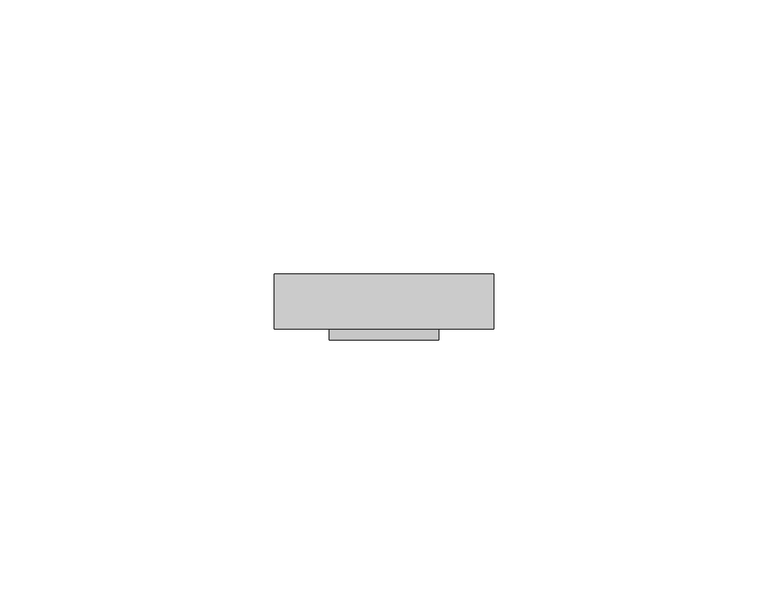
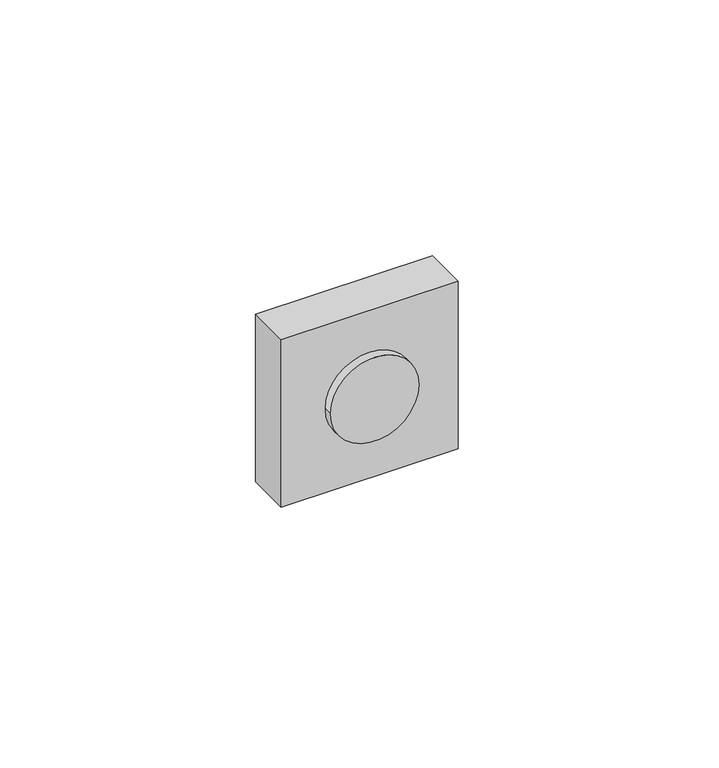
"""IFC4 building model written with IfcOpenShell, lengths in millimetres: proxy geometry, BIMHealth-Cancel_Button-Non_Wall_Mounted-LOD2A-v1 : BIMHealth-Cancel_Button-Non_Wall_Mounted-LOD2A-v1."""

from ifc_helpers import new_model, si_unit, point, frame, frame_2d, origin, place, context, project, spatial, polyline, circle_curve, trimmed, segment, composite_curve, outline, extrude, source, transform, mapped, element, save


def electrical_fixtures_5073e38d(model_context):
    return source(origin(), model_context, "Body", "SweptSolid", [
        extrude(outline(composite_curve([segment(trimmed(circle_curve(frame_2d((1364.2843475, 20.0)), 10.0), [point((1364.2843475, 10.0))], [point((1364.2843475, 30.0))], False, "CARTESIAN"), True, "CONTINUOUS"), segment(trimmed(circle_curve(frame_2d((1364.2843475, 20.0)), 10.0), [point((1364.2843475, 30.0))], [point((1364.2843475, 10.0))], False, "CARTESIAN"), True, "CONTINUOUS")], self_intersect=False)), frame((0.0, -12.0, 0.0), z_axis=(0.0, 1.0, 0.0), x_axis=(0.0, 0.0, 1.0)), (0.0, 0.0, 1.0), 2.0),
        extrude(outline(polyline([(40.0, -10.0), (0.0, -10.0), (0.0, 0.0), (40.0, 0.0), (40.0, -10.0)])), frame((0.0, 0.0, 1344.2843475), z_axis=(0.0, 0.0, 1.0), x_axis=(1.0, 0.0, 0.0)), (0.0, 0.0, 1.0), 40.0),
    ])


if __name__ == "__main__":
    model = new_model("IFC4")
    model_context = context("Model", 3, world=origin())
    ifc_project = project(units=[si_unit("LENGTHUNIT", "METRE", prefix="MILLI")], contexts=[model_context])
    site = spatial("IfcSite", under=ifc_project)
    building = spatial("IfcBuilding", under=site)
    placement = place(None, origin())
    electrical_fixtures_shape = electrical_fixtures_5073e38d(model_context)
    element("IfcBuildingElementProxy", 1, Name="BIMHealth-Cancel_Button-Non_Wall_Mounted-LOD2A-v1 : BIMHealth-Cancel_Button-Non_Wall_Mounted-LOD2A-v1", ObjectType="BIMHealth-Cancel_Button-Non_Wall_Mounted-LOD2A-v1 : BIMHealth-Cancel_Button-Non_Wall_Mounted-LOD2A-v1", at=placement, inside=building, context=model_context, shape_type="MappedRepresentation", body=[
        mapped(electrical_fixtures_shape, transform((0.0, 0.0, 0.0), x_axis=(1.0, 0.0, 0.0), y_axis=(0.0, 1.0, 0.0), z_axis=(0.0, 0.0, 1.0))),
    ])
    save(model, "model.ifc")
